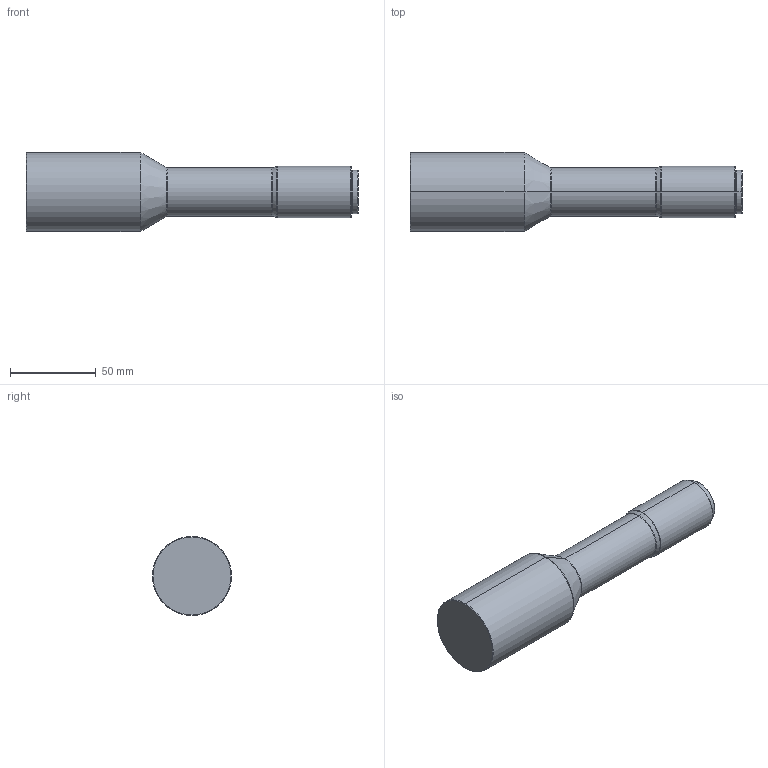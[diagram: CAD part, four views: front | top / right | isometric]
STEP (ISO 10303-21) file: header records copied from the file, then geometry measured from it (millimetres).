
FILE_DESCRIPTION (( 'STEP AP203' ), '1' );
FILE_NAME ('WWH098-280AT-230V2.STEP', '2021-12-23T08:43:10', ( '' ), ( '' ), 'SwSTEP 2.0', 'SolidWorks 2017', '' );
FILE_SCHEMA (( 'CONFIG_CONTROL_DESIGN' ));
Length unit declared in the file: millimetre
Products named in the file (1): WWH098-280AT-230V2
Bounding box: 193.2 x 46 x 46 mm (x, y, z)
Volume: 199668.6 mm3; surface area: 24131.2 mm2
Topology: 1 solids, 1 shells, 32 faces, 62 edges, 34 vertices
Faces by surface type: cone 10, cylinder 10, torus 8, plane 4
Entity records: 889 total; most frequent: DIRECTION 170, CARTESIAN_POINT 129, ORIENTED_EDGE 124, AXIS2_PLACEMENT_3D 75, EDGE_CURVE 62, CIRCLE 42, VERTEX_POINT 34, EDGE_LOOP 34
